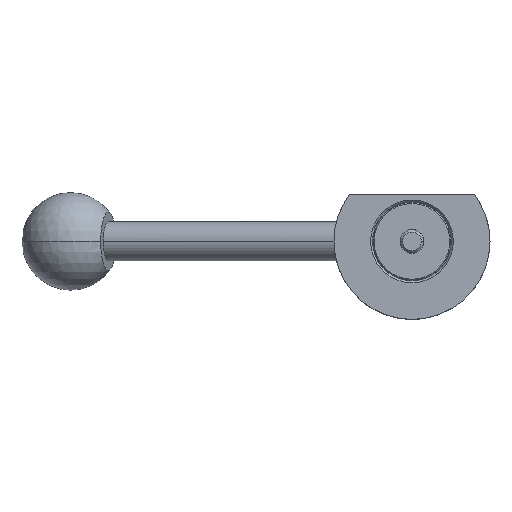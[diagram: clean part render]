
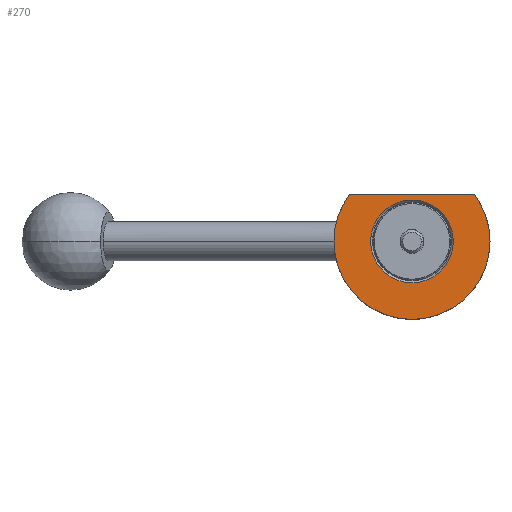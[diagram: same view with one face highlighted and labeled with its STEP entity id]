
A CAD part, front view. The second image highlights one B-rep face of the part: STEP entity #270.
In plain terms, the highlighted planar face has unit normal (0, -1, 0).
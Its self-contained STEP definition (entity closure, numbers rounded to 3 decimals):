
#42 = FACE_BOUND ( 'NONE', #354, .T. ) ;
#47 = AXIS2_PLACEMENT_3D ( 'NONE', #609, #772, #1568 ) ;
#51 = VERTEX_POINT ( 'NONE', #994 ) ;
#89 = ORIENTED_EDGE ( 'NONE', *, *, #1961, .F. ) ;
#195 = CARTESIAN_POINT ( 'NONE',  ( -10.6, -10., 0. ) ) ;
#265 = CARTESIAN_POINT ( 'NONE',  ( -10.6, -10., 0. ) ) ;
#270 = ADVANCED_FACE ( 'NONE', ( #42, #630 ), #1563, .T. ) ;
#313 = CARTESIAN_POINT ( 'NONE',  ( 0., -10., 0. ) ) ;
#354 = EDGE_LOOP ( 'NONE', ( #384, #1282 ) ) ;
#370 = EDGE_CURVE ( 'NONE', #687, #1474, #1744, .T. ) ;
#384 = ORIENTED_EDGE ( 'NONE', *, *, #917, .T. ) ;
#467 = VECTOR ( 'NONE', #961, 1000. ) ;
#570 = EDGE_CURVE ( 'NONE', #1144, #1200, #1061, .T. ) ;
#592 = DIRECTION ( 'NONE',  ( 0., 1., 0. ) ) ;
#609 = CARTESIAN_POINT ( 'NONE',  ( 0., -10., 0. ) ) ;
#618 = CARTESIAN_POINT ( 'NONE',  ( -10.6, -10., 11.999 ) ) ;
#630 = FACE_OUTER_BOUND ( 'NONE', #1108, .T. ) ;
#685 = ORIENTED_EDGE ( 'NONE', *, *, #370, .F. ) ;
#687 = VERTEX_POINT ( 'NONE', #776 ) ;
#718 = DIRECTION ( 'NONE',  ( 0., 1., 0. ) ) ;
#719 = CARTESIAN_POINT ( 'NONE',  ( 10.6, -10., 0. ) ) ;
#745 = CARTESIAN_POINT ( 'NONE',  ( 0., -10., 0. ) ) ;
#755 = EDGE_CURVE ( 'NONE', #1474, #918, #933, .T. ) ;
#772 = DIRECTION ( 'NONE',  ( 0., 1., 0. ) ) ;
#776 = CARTESIAN_POINT ( 'NONE',  ( 16.001, -10., 11.999 ) ) ;
#786 = DIRECTION ( 'NONE',  ( -1., 0., 0. ) ) ;
#917 = EDGE_CURVE ( 'NONE', #1200, #1144, #1913, .T. ) ;
#918 = VERTEX_POINT ( 'NONE', #1887 ) ;
#933 = CIRCLE ( 'NONE', #1423, 20. ) ;
#943 = DIRECTION ( 'NONE',  ( 0., 1., 0. ) ) ;
#961 = DIRECTION ( 'NONE',  ( -1., 0., 0. ) ) ;
#991 = DIRECTION ( 'NONE',  ( 1., 0., 0. ) ) ;
#994 = CARTESIAN_POINT ( 'NONE',  ( -16.001, -10., 11.999 ) ) ;
#995 = CARTESIAN_POINT ( 'NONE',  ( 20., -10., 0. ) ) ;
#1061 = CIRCLE ( 'NONE', #1095, 10.6 ) ;
#1095 = AXIS2_PLACEMENT_3D ( 'NONE', #745, #592, #1392 ) ;
#1108 = EDGE_LOOP ( 'NONE', ( #685, #1873, #89, #1731 ) ) ;
#1134 = CARTESIAN_POINT ( 'NONE',  ( 0., -10., 0. ) ) ;
#1144 = VERTEX_POINT ( 'NONE', #265 ) ;
#1200 = VERTEX_POINT ( 'NONE', #719 ) ;
#1211 = CARTESIAN_POINT ( 'NONE',  ( 0., -10., 0. ) ) ;
#1233 = AXIS2_PLACEMENT_3D ( 'NONE', #313, #943, #786 ) ;
#1282 = ORIENTED_EDGE ( 'NONE', *, *, #570, .T. ) ;
#1310 = DIRECTION ( 'NONE',  ( 0., 1., 0. ) ) ;
#1323 = EDGE_CURVE ( 'NONE', #687, #51, #2018, .T. ) ;
#1392 = DIRECTION ( 'NONE',  ( -1., 0., 0. ) ) ;
#1423 = AXIS2_PLACEMENT_3D ( 'NONE', #1211, #718, #1508 ) ;
#1474 = VERTEX_POINT ( 'NONE', #995 ) ;
#1508 = DIRECTION ( 'NONE',  ( -1., 0., 0. ) ) ;
#1563 = PLANE ( 'NONE',  #2003 ) ;
#1568 = DIRECTION ( 'NONE',  ( -1., 0., 0. ) ) ;
#1586 = DIRECTION ( 'NONE',  ( -1., 0., 0. ) ) ;
#1727 = DIRECTION ( 'NONE',  ( 0., -1., 0. ) ) ;
#1731 = ORIENTED_EDGE ( 'NONE', *, *, #755, .F. ) ;
#1744 = CIRCLE ( 'NONE', #1233, 20. ) ;
#1795 = AXIS2_PLACEMENT_3D ( 'NONE', #1134, #1310, #1586 ) ;
#1873 = ORIENTED_EDGE ( 'NONE', *, *, #1323, .T. ) ;
#1887 = CARTESIAN_POINT ( 'NONE',  ( -20., -10., 0. ) ) ;
#1913 = CIRCLE ( 'NONE', #47, 10.6 ) ;
#1953 = CIRCLE ( 'NONE', #1795, 20. ) ;
#1961 = EDGE_CURVE ( 'NONE', #918, #51, #1953, .T. ) ;
#2003 = AXIS2_PLACEMENT_3D ( 'NONE', #195, #1727, #991 ) ;
#2018 = LINE ( 'NONE', #618, #467 ) ;
